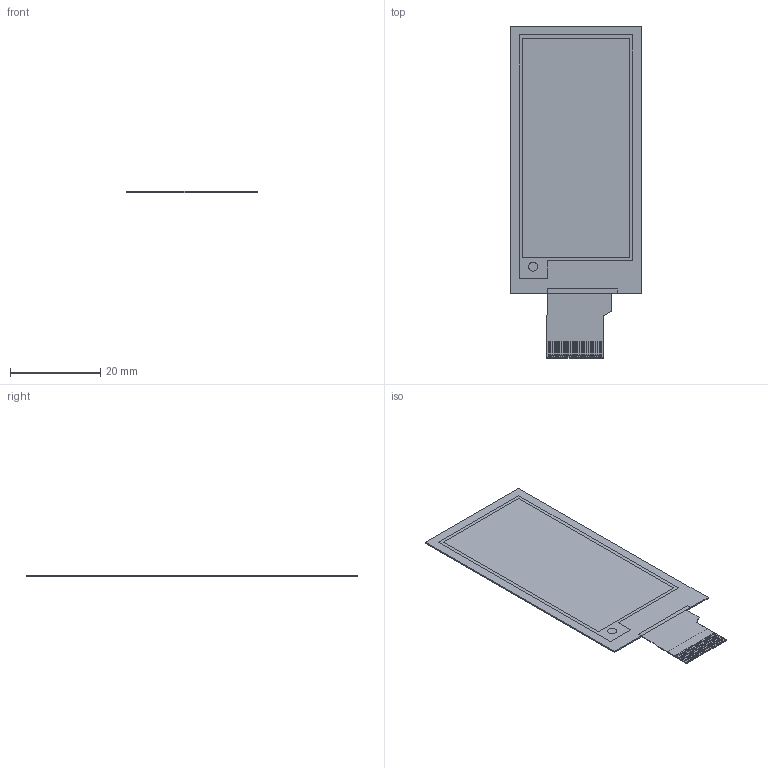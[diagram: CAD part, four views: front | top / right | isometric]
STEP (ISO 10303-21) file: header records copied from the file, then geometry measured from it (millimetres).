
FILE_DESCRIPTION (( 'STEP AP214' ), '1' );
FILE_NAME ('CFAP104212D1-0213.STEP', '2023-04-26T21:10:38', ( '' ), ( '' ), 'SwSTEP 2.0', 'SolidWorks 2021', '' );
FILE_SCHEMA (( 'AUTOMOTIVE_DESIGN' ));
Length unit declared in the file: millimetre
Products named in the file (1): CFAP104212D1-0213
Bounding box: 29.2 x 73.5 x 0.37 mm (x, y, z)
Volume: 554.2 mm3; surface area: 3991.8 mm2
Topology: 26 solids, 26 shells, 263 faces, 636 edges, 428 vertices
Faces by surface type: plane 263
Entity records: 10603 total; most frequent: CARTESIAN_POINT 1328, ORIENTED_EDGE 1272, DIRECTION 1166, EDGE_CURVE 636, LINE 634, VECTOR 634, VERTEX_POINT 428, UNCERTAINTY_MEASURE_WITH_UNIT 284
